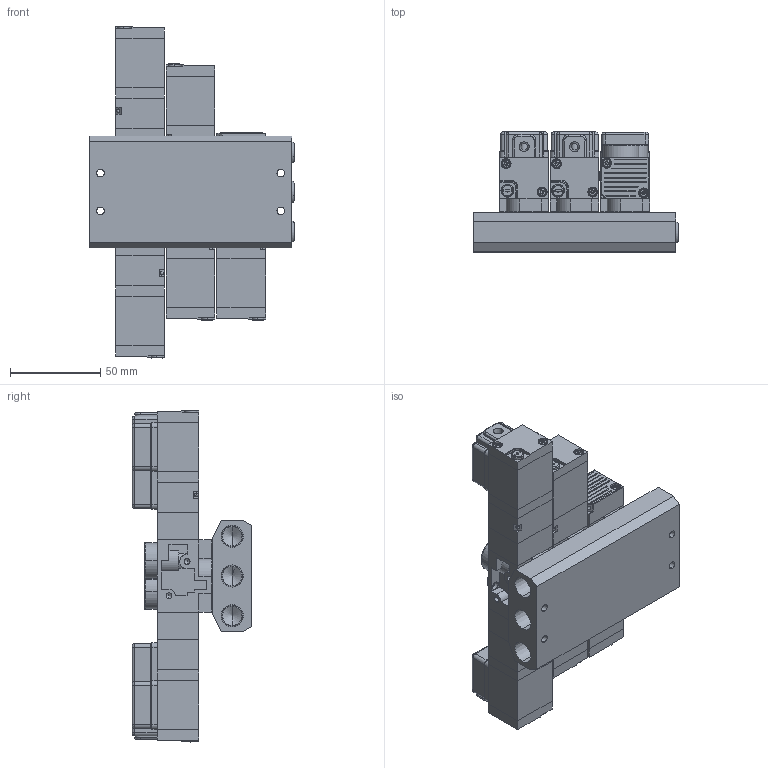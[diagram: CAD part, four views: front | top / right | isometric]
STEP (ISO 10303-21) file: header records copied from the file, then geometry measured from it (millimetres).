
FILE_DESCRIPTION (( 'STEP AP203' ), '1' );
FILE_NAME ('MFU#-RC06-02-G.STEP', '2016-02-04T05:39:13', ( 'Sam Lin' ), ( '' ), 'SwSTEP 2.0', 'SolidWorks 2013', '' );
FILE_SCHEMA (( 'CONFIG_CONTROL_DESIGN' ));
Length unit declared in the file: metre
Products named in the file (17): PCS2406-3; RC06-墊片; PC6-M4; 承頭; PCS2406-9; MFU#-RC06-02-G; PC6-M3; MFU#-RC06-02; RC06-4; PC06-MARK; RC06-5; RC06-1; RC06-7=15; RC06-3; RC06-8=6; PCS2406-3-小圓珠; RC06-2
Assembly tree (65 placements, depth 2):
  MFU#-RC06-02-G
    MFU#-RC06-02
    PC06-MARK  x3
    RC06-1  x3
    RC06-3  x5
    PCS2406-3-小圓珠  x5
    PCS2406-3  x5
    PC6-M4  x5
    PCS2406-9  x5
    PC6-M3  x12
    RC06-4  x5
    RC06-5  x5
    RC06-7=15  x2
    RC06-8=6  x2
    RC06-2
    RC06-墊片  x3
    承頭  x3
Bounding box: 113.51 x 66.5 x 184 mm (x, y, z)
Volume: 450198 mm3; surface area: 141009.4 mm2
Topology: 83 solids, 83 shells, 2046 faces, 5037 edges, 3119 vertices
Faces by surface type: plane 1029, cylinder 478, cone 263, bspline 256, torus 20
Entity records: 21020 total; most frequent: CARTESIAN_POINT 4856, DIRECTION 2723, ORIENTED_EDGE 2666, EDGE_CURVE 1333, AXIS2_PLACEMENT_3D 976, VERTEX_POINT 864, VECTOR 771, LINE 771
